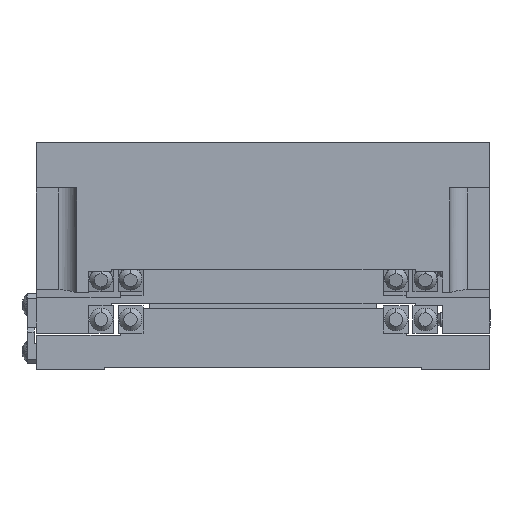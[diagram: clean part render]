
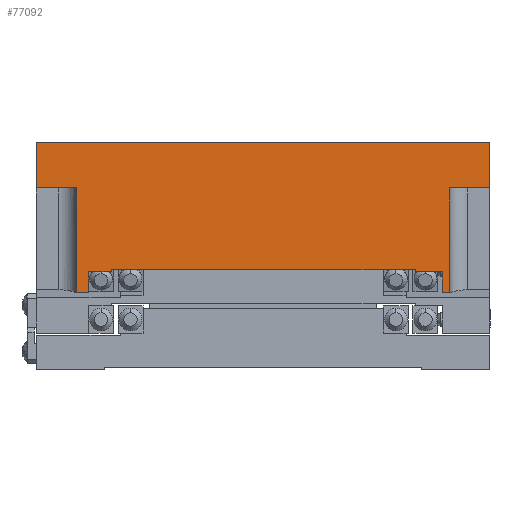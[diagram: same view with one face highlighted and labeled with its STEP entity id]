
A CAD part, left-side view. The second image highlights one B-rep face of the part: STEP entity #77092.
In plain terms, the highlighted planar face has unit normal (-1, 0, 0).
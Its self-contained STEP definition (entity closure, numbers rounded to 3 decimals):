
#1838 = ORIENTED_EDGE ( 'NONE', *, *, #77664, .F. ) ;
#1839 = ORIENTED_EDGE ( 'NONE', *, *, #77665, .F. ) ;
#1840 = ORIENTED_EDGE ( 'NONE', *, *, #77666, .F. ) ;
#1841 = ORIENTED_EDGE ( 'NONE', *, *, #77667, .T. ) ;
#1842 = ORIENTED_EDGE ( 'NONE', *, *, #77668, .T. ) ;
#1843 = ORIENTED_EDGE ( 'NONE', *, *, #77669, .F. ) ;
#1844 = ORIENTED_EDGE ( 'NONE', *, *, #77670, .T. ) ;
#1845 = ORIENTED_EDGE ( 'NONE', *, *, #77650, .F. ) ;
#1846 = ORIENTED_EDGE ( 'NONE', *, *, #77654, .T. ) ;
#1847 = ORIENTED_EDGE ( 'NONE', *, *, #77671, .F. ) ;
#1848 = ORIENTED_EDGE ( 'NONE', *, *, #77672, .T. ) ;
#1849 = ORIENTED_EDGE ( 'NONE', *, *, #77673, .T. ) ;
#1850 = ORIENTED_EDGE ( 'NONE', *, *, #77674, .T. ) ;
#1851 = ORIENTED_EDGE ( 'NONE', *, *, #77675, .T. ) ;
#1852 = ORIENTED_EDGE ( 'NONE', *, *, #77676, .T. ) ;
#1853 = ORIENTED_EDGE ( 'NONE', *, *, #77677, .T. ) ;
#14388 = EDGE_LOOP ( 'NONE', ( #1838, #1839, #1840, #1841, #1842, #1843, #1844, #1845, #1846, #1847, #1848, #1849, #1850, #1851, #1852, #1853 ) ) ;
#21512 = CARTESIAN_POINT ( 'NONE',  ( -50., -10., 50. ) ) ;
#21527 = CARTESIAN_POINT ( 'NONE',  ( -50., -28.5, -38.5 ) ) ;
#21530 = CARTESIAN_POINT ( 'NONE',  ( -50., -33., -38.5 ) ) ;
#21531 = CARTESIAN_POINT ( 'NONE',  ( -50., -28.5, -33.5 ) ) ;
#21533 = CARTESIAN_POINT ( 'NONE',  ( -50., -27.985, -33.5 ) ) ;
#21536 = CARTESIAN_POINT ( 'NONE',  ( -50., -10., 41.1 ) ) ;
#21539 = CARTESIAN_POINT ( 'NONE',  ( -50., 0., 50. ) ) ;
#21540 = CARTESIAN_POINT ( 'NONE',  ( -50., 0., -50. ) ) ;
#21541 = CARTESIAN_POINT ( 'NONE',  ( -50., -33., -41.1 ) ) ;
#21543 = CARTESIAN_POINT ( 'NONE',  ( -50., -10., -50. ) ) ;
#21544 = CARTESIAN_POINT ( 'NONE',  ( -50., -10., -41.1 ) ) ;
#21547 = CARTESIAN_POINT ( 'NONE',  ( -50., -27.985, 33.5 ) ) ;
#21548 = CARTESIAN_POINT ( 'NONE',  ( -50., -28.5, 33.5 ) ) ;
#21549 = CARTESIAN_POINT ( 'NONE',  ( -50., -28.5, 39.5 ) ) ;
#21550 = CARTESIAN_POINT ( 'NONE',  ( -50., -33., 39.5 ) ) ;
#21551 = CARTESIAN_POINT ( 'NONE',  ( -50., -33., 41.1 ) ) ;
#75128 = AXIS2_PLACEMENT_3D ( 'NONE', #77034, #77061, #77063 ) ;
#75481 = VECTOR ( 'NONE', #79530, 1000. ) ;
#75483 = VECTOR ( 'NONE', #79554, 1000. ) ;
#75493 = VECTOR ( 'NONE', #79628, 1000. ) ;
#75496 = VECTOR ( 'NONE', #79623, 1000. ) ;
#75498 = VECTOR ( 'NONE', #79639, 1000. ) ;
#75499 = VECTOR ( 'NONE', #79634, 1000. ) ;
#75500 = VECTOR ( 'NONE', #79657, 1000. ) ;
#75501 = VECTOR ( 'NONE', #79645, 1000. ) ;
#75502 = VECTOR ( 'NONE', #79652, 1000. ) ;
#75504 = VECTOR ( 'NONE', #79663, 1000. ) ;
#75505 = VECTOR ( 'NONE', #79669, 1000. ) ;
#75506 = VECTOR ( 'NONE', #79675, 1000. ) ;
#75507 = VECTOR ( 'NONE', #79681, 1000. ) ;
#75508 = VECTOR ( 'NONE', #79687, 1000. ) ;
#75509 = VECTOR ( 'NONE', #79693, 1000. ) ;
#75510 = VECTOR ( 'NONE', #79699, 1000. ) ;
#77034 = CARTESIAN_POINT ( 'NONE',  ( -50., 0., 39.5 ) ) ;
#77054 = FACE_OUTER_BOUND ( 'NONE', #14388, .T. ) ;
#77056 = PLANE ( 'NONE',  #75128 ) ;
#77061 = DIRECTION ( 'NONE',  ( -1., 0., 0. ) ) ;
#77063 = DIRECTION ( 'NONE',  ( 0., 0., 1. ) ) ;
#77092 = ADVANCED_FACE ( 'NONE', ( #77054 ), #77056, .T. ) ;
#77650 = EDGE_CURVE ( 'NONE', #79979, #79982, #79503, .T. ) ;
#77654 = EDGE_CURVE ( 'NONE', #79979, #79983, #79512, .T. ) ;
#77664 = EDGE_CURVE ( 'NONE', #79962, #79988, #79603, .T. ) ;
#77665 = EDGE_CURVE ( 'NONE', #79991, #79962, #79614, .T. ) ;
#77666 = EDGE_CURVE ( 'NONE', #79992, #79991, #79630, .T. ) ;
#77667 = EDGE_CURVE ( 'NONE', #79992, #79995, #79613, .T. ) ;
#77668 = EDGE_CURVE ( 'NONE', #79995, #79996, #79641, .T. ) ;
#77669 = EDGE_CURVE ( 'NONE', #79993, #79996, #79647, .T. ) ;
#77670 = EDGE_CURVE ( 'NONE', #79993, #79982, #79621, .T. ) ;
#77671 = EDGE_CURVE ( 'NONE', #79985, #79983, #79659, .T. ) ;
#77672 = EDGE_CURVE ( 'NONE', #79985, #79999, #79665, .T. ) ;
#77673 = EDGE_CURVE ( 'NONE', #79999, #80000, #79671, .T. ) ;
#77674 = EDGE_CURVE ( 'NONE', #80000, #80001, #79677, .T. ) ;
#77675 = EDGE_CURVE ( 'NONE', #80001, #80002, #79683, .T. ) ;
#77676 = EDGE_CURVE ( 'NONE', #80002, #80003, #79689, .T. ) ;
#77677 = EDGE_CURVE ( 'NONE', #80003, #79988, #79695, .T. ) ;
#79503 = LINE ( 'NONE', #79526, #75481 ) ;
#79512 = LINE ( 'NONE', #79550, #75483 ) ;
#79526 = CARTESIAN_POINT ( 'NONE',  ( -50., 0., -38.5 ) ) ;
#79530 = DIRECTION ( 'NONE',  ( 0., -1., 0. ) ) ;
#79550 = CARTESIAN_POINT ( 'NONE',  ( -50., -28.5, -38.5 ) ) ;
#79554 = DIRECTION ( 'NONE',  ( 0., 0., 1. ) ) ;
#79603 = LINE ( 'NONE', #79606, #75496 ) ;
#79606 = CARTESIAN_POINT ( 'NONE',  ( -50., -10., 50. ) ) ;
#79613 = LINE ( 'NONE', #79636, #75498 ) ;
#79614 = LINE ( 'NONE', #79625, #75493 ) ;
#79621 = LINE ( 'NONE', #79654, #75500 ) ;
#79623 = DIRECTION ( 'NONE',  ( 0., 0., -1. ) ) ;
#79625 = CARTESIAN_POINT ( 'NONE',  ( -50., 0., 50. ) ) ;
#79628 = DIRECTION ( 'NONE',  ( 0., -1., 0. ) ) ;
#79630 = LINE ( 'NONE', #79632, #75499 ) ;
#79632 = CARTESIAN_POINT ( 'NONE',  ( -50., 0., 39.5 ) ) ;
#79634 = DIRECTION ( 'NONE',  ( 0., 0., 1. ) ) ;
#79636 = CARTESIAN_POINT ( 'NONE',  ( -50., 0., -50. ) ) ;
#79639 = DIRECTION ( 'NONE',  ( 0., -1., 0. ) ) ;
#79641 = LINE ( 'NONE', #79643, #75501 ) ;
#79643 = CARTESIAN_POINT ( 'NONE',  ( -50., -10., -50. ) ) ;
#79645 = DIRECTION ( 'NONE',  ( 0., 0., 1. ) ) ;
#79647 = LINE ( 'NONE', #79650, #75502 ) ;
#79650 = CARTESIAN_POINT ( 'NONE',  ( -50., -33., -41.1 ) ) ;
#79652 = DIRECTION ( 'NONE',  ( 0., 1., 0. ) ) ;
#79654 = CARTESIAN_POINT ( 'NONE',  ( -50., -33., -50. ) ) ;
#79657 = DIRECTION ( 'NONE',  ( 0., 0., 1. ) ) ;
#79659 = LINE ( 'NONE', #79661, #75504 ) ;
#79661 = CARTESIAN_POINT ( 'NONE',  ( -50., 0., -33.5 ) ) ;
#79663 = DIRECTION ( 'NONE',  ( 0., -1., 0. ) ) ;
#79665 = LINE ( 'NONE', #79667, #75505 ) ;
#79667 = CARTESIAN_POINT ( 'NONE',  ( -50., -27.985, -33.5 ) ) ;
#79669 = DIRECTION ( 'NONE',  ( 0., 0., 1. ) ) ;
#79671 = LINE ( 'NONE', #79673, #75506 ) ;
#79673 = CARTESIAN_POINT ( 'NONE',  ( -50., 0., 33.5 ) ) ;
#79675 = DIRECTION ( 'NONE',  ( 0., -1., 0. ) ) ;
#79677 = LINE ( 'NONE', #79679, #75507 ) ;
#79679 = CARTESIAN_POINT ( 'NONE',  ( -50., -28.5, 33.5 ) ) ;
#79681 = DIRECTION ( 'NONE',  ( 0., 0., 1. ) ) ;
#79683 = LINE ( 'NONE', #79685, #75508 ) ;
#79685 = CARTESIAN_POINT ( 'NONE',  ( -50., 0., 39.5 ) ) ;
#79687 = DIRECTION ( 'NONE',  ( 0., -1., 0. ) ) ;
#79689 = LINE ( 'NONE', #79691, #75509 ) ;
#79691 = CARTESIAN_POINT ( 'NONE',  ( -50., -33., 39.5 ) ) ;
#79693 = DIRECTION ( 'NONE',  ( 0., 0., 1. ) ) ;
#79695 = LINE ( 'NONE', #79697, #75510 ) ;
#79697 = CARTESIAN_POINT ( 'NONE',  ( -50., -33., 41.1 ) ) ;
#79699 = DIRECTION ( 'NONE',  ( 0., 1., 0. ) ) ;
#79962 = VERTEX_POINT ( 'NONE', #21512 ) ;
#79979 = VERTEX_POINT ( 'NONE', #21527 ) ;
#79982 = VERTEX_POINT ( 'NONE', #21530 ) ;
#79983 = VERTEX_POINT ( 'NONE', #21531 ) ;
#79985 = VERTEX_POINT ( 'NONE', #21533 ) ;
#79988 = VERTEX_POINT ( 'NONE', #21536 ) ;
#79991 = VERTEX_POINT ( 'NONE', #21539 ) ;
#79992 = VERTEX_POINT ( 'NONE', #21540 ) ;
#79993 = VERTEX_POINT ( 'NONE', #21541 ) ;
#79995 = VERTEX_POINT ( 'NONE', #21543 ) ;
#79996 = VERTEX_POINT ( 'NONE', #21544 ) ;
#79999 = VERTEX_POINT ( 'NONE', #21547 ) ;
#80000 = VERTEX_POINT ( 'NONE', #21548 ) ;
#80001 = VERTEX_POINT ( 'NONE', #21549 ) ;
#80002 = VERTEX_POINT ( 'NONE', #21550 ) ;
#80003 = VERTEX_POINT ( 'NONE', #21551 ) ;
